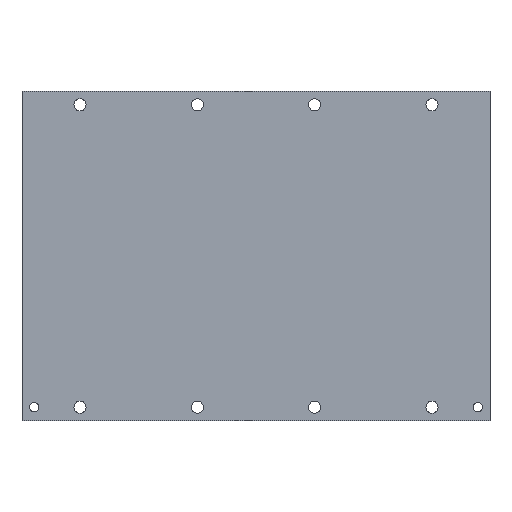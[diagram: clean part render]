
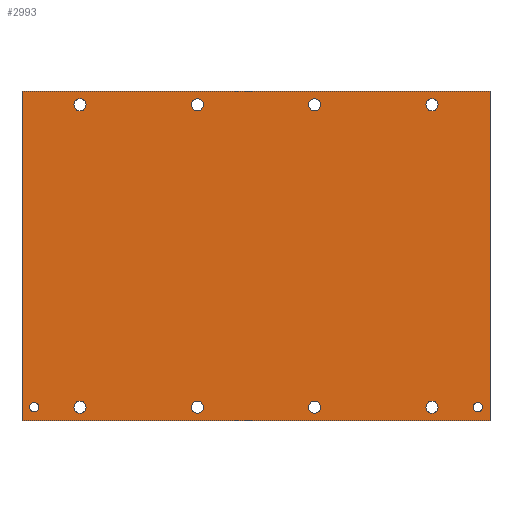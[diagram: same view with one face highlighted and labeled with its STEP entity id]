
A CAD part, front view. The second image highlights one B-rep face of the part: STEP entity #2993.
In plain terms, the highlighted planar face has unit normal (0, -1, 0).
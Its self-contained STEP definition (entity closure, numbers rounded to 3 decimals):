
#13=DIRECTION('',(0.,0.,1.));
#14=VECTOR('',#13,180.);
#15=CARTESIAN_POINT('',(127.65,0.,-90.));
#16=LINE('',#15,#14);
#17=DIRECTION('',(-1.,0.,0.));
#18=VECTOR('',#17,255.3);
#19=CARTESIAN_POINT('',(127.65,0.,90.));
#20=LINE('',#19,#18);
#21=DIRECTION('',(-1.,0.,0.));
#22=VECTOR('',#21,255.3);
#23=CARTESIAN_POINT('',(127.65,0.,-90.));
#24=LINE('',#23,#22);
#25=CARTESIAN_POINT('',(-96.,0.,-82.5));
#26=DIRECTION('',(0.,1.,0.));
#27=DIRECTION('',(1.,0.,0.));
#28=AXIS2_PLACEMENT_3D('',#25,#26,#27);
#30=CARTESIAN_POINT('',(-96.,0.,-82.5));
#31=DIRECTION('',(0.,1.,0.));
#32=DIRECTION('',(-1.,0.,0.));
#33=AXIS2_PLACEMENT_3D('',#30,#31,#32);
#35=CARTESIAN_POINT('',(-32.,0.,-82.5));
#36=DIRECTION('',(0.,1.,0.));
#37=DIRECTION('',(1.,0.,0.));
#38=AXIS2_PLACEMENT_3D('',#35,#36,#37);
#40=CARTESIAN_POINT('',(-32.,0.,-82.5));
#41=DIRECTION('',(0.,1.,0.));
#42=DIRECTION('',(-1.,0.,0.));
#43=AXIS2_PLACEMENT_3D('',#40,#41,#42);
#45=CARTESIAN_POINT('',(32.,0.,-82.5));
#46=DIRECTION('',(0.,1.,0.));
#47=DIRECTION('',(1.,0.,0.));
#48=AXIS2_PLACEMENT_3D('',#45,#46,#47);
#50=CARTESIAN_POINT('',(32.,0.,-82.5));
#51=DIRECTION('',(0.,1.,0.));
#52=DIRECTION('',(-1.,0.,0.));
#53=AXIS2_PLACEMENT_3D('',#50,#51,#52);
#55=CARTESIAN_POINT('',(96.,0.,-82.5));
#56=DIRECTION('',(0.,1.,0.));
#57=DIRECTION('',(1.,0.,0.));
#58=AXIS2_PLACEMENT_3D('',#55,#56,#57);
#60=CARTESIAN_POINT('',(96.,0.,-82.5));
#61=DIRECTION('',(0.,1.,0.));
#62=DIRECTION('',(-1.,0.,0.));
#63=AXIS2_PLACEMENT_3D('',#60,#61,#62);
#65=CARTESIAN_POINT('',(-96.,0.,82.5));
#66=DIRECTION('',(0.,1.,0.));
#67=DIRECTION('',(1.,0.,0.));
#68=AXIS2_PLACEMENT_3D('',#65,#66,#67);
#70=CARTESIAN_POINT('',(-96.,0.,82.5));
#71=DIRECTION('',(0.,1.,0.));
#72=DIRECTION('',(-1.,0.,0.));
#73=AXIS2_PLACEMENT_3D('',#70,#71,#72);
#75=CARTESIAN_POINT('',(-32.,0.,82.5));
#76=DIRECTION('',(0.,1.,0.));
#77=DIRECTION('',(1.,0.,0.));
#78=AXIS2_PLACEMENT_3D('',#75,#76,#77);
#80=CARTESIAN_POINT('',(-32.,0.,82.5));
#81=DIRECTION('',(0.,1.,0.));
#82=DIRECTION('',(-1.,0.,0.));
#83=AXIS2_PLACEMENT_3D('',#80,#81,#82);
#85=CARTESIAN_POINT('',(32.,0.,82.5));
#86=DIRECTION('',(0.,1.,0.));
#87=DIRECTION('',(1.,0.,0.));
#88=AXIS2_PLACEMENT_3D('',#85,#86,#87);
#90=CARTESIAN_POINT('',(32.,0.,82.5));
#91=DIRECTION('',(0.,1.,0.));
#92=DIRECTION('',(-1.,0.,0.));
#93=AXIS2_PLACEMENT_3D('',#90,#91,#92);
#95=CARTESIAN_POINT('',(96.,0.,82.5));
#96=DIRECTION('',(0.,1.,0.));
#97=DIRECTION('',(1.,0.,0.));
#98=AXIS2_PLACEMENT_3D('',#95,#96,#97);
#100=CARTESIAN_POINT('',(96.,0.,82.5));
#101=DIRECTION('',(0.,1.,0.));
#102=DIRECTION('',(-1.,0.,0.));
#103=AXIS2_PLACEMENT_3D('',#100,#101,#102);
#105=CARTESIAN_POINT('',(-121.,0.,-82.5));
#106=DIRECTION('',(0.,-1.,0.));
#107=DIRECTION('',(1.,0.,0.));
#108=AXIS2_PLACEMENT_3D('',#105,#106,#107);
#110=CARTESIAN_POINT('',(-121.,0.,-82.5));
#111=DIRECTION('',(0.,-1.,0.));
#112=DIRECTION('',(-1.,0.,0.));
#113=AXIS2_PLACEMENT_3D('',#110,#111,#112);
#115=CARTESIAN_POINT('',(121.,0.,-82.5));
#116=DIRECTION('',(0.,-1.,0.));
#117=DIRECTION('',(1.,0.,0.));
#118=AXIS2_PLACEMENT_3D('',#115,#116,#117);
#120=CARTESIAN_POINT('',(121.,0.,-82.5));
#121=DIRECTION('',(0.,-1.,0.));
#122=DIRECTION('',(-1.,0.,0.));
#123=AXIS2_PLACEMENT_3D('',#120,#121,#122);
#781=DIRECTION('',(0.,0.,1.));
#782=VECTOR('',#781,180.);
#783=CARTESIAN_POINT('',(-127.65,0.,-90.));
#784=LINE('',#783,#782);
#2185=CARTESIAN_POINT('',(127.65,0.,90.));
#2187=VERTEX_POINT('',#2185);
#2191=CARTESIAN_POINT('',(127.65,0.,-90.));
#2192=VERTEX_POINT('',#2191);
#2193=CARTESIAN_POINT('',(-127.65,0.,90.));
#2195=VERTEX_POINT('',#2193);
#2199=CARTESIAN_POINT('',(-127.65,0.,-90.));
#2200=VERTEX_POINT('',#2199);
#2221=CARTESIAN_POINT('',(-118.445,0.,-82.5));
#2222=CARTESIAN_POINT('',(-123.555,0.,-82.5));
#2223=VERTEX_POINT('',#2221);
#2224=VERTEX_POINT('',#2222);
#2229=CARTESIAN_POINT('',(123.555,0.,-82.5));
#2230=CARTESIAN_POINT('',(118.445,0.,-82.5));
#2231=VERTEX_POINT('',#2229);
#2232=VERTEX_POINT('',#2230);
#2245=CARTESIAN_POINT('',(-92.7,0.,-82.5));
#2246=CARTESIAN_POINT('',(-99.3,0.,-82.5));
#2247=VERTEX_POINT('',#2245);
#2248=VERTEX_POINT('',#2246);
#2261=CARTESIAN_POINT('',(-28.7,0.,-82.5));
#2262=CARTESIAN_POINT('',(-35.3,0.,-82.5));
#2263=VERTEX_POINT('',#2261);
#2264=VERTEX_POINT('',#2262);
#2277=CARTESIAN_POINT('',(35.3,0.,-82.5));
#2278=CARTESIAN_POINT('',(28.7,0.,-82.5));
#2279=VERTEX_POINT('',#2277);
#2280=VERTEX_POINT('',#2278);
#2293=CARTESIAN_POINT('',(99.3,0.,-82.5));
#2294=CARTESIAN_POINT('',(92.7,0.,-82.5));
#2295=VERTEX_POINT('',#2293);
#2296=VERTEX_POINT('',#2294);
#2309=CARTESIAN_POINT('',(-92.7,0.,82.5));
#2310=CARTESIAN_POINT('',(-99.3,0.,82.5));
#2311=VERTEX_POINT('',#2309);
#2312=VERTEX_POINT('',#2310);
#2325=CARTESIAN_POINT('',(-28.7,0.,82.5));
#2326=CARTESIAN_POINT('',(-35.3,0.,82.5));
#2327=VERTEX_POINT('',#2325);
#2328=VERTEX_POINT('',#2326);
#2341=CARTESIAN_POINT('',(35.3,0.,82.5));
#2342=CARTESIAN_POINT('',(28.7,0.,82.5));
#2343=VERTEX_POINT('',#2341);
#2344=VERTEX_POINT('',#2342);
#2357=CARTESIAN_POINT('',(99.3,0.,82.5));
#2358=CARTESIAN_POINT('',(92.7,0.,82.5));
#2359=VERTEX_POINT('',#2357);
#2360=VERTEX_POINT('',#2358);
#2920=CARTESIAN_POINT('',(127.65,0.,-90.));
#2921=DIRECTION('',(0.,-1.,0.));
#2922=DIRECTION('',(0.,0.,1.));
#2923=AXIS2_PLACEMENT_3D('',#2920,#2921,#2922);
#2924=PLANE('',#2923);
#2925=ORIENTED_EDGE('',*,*,#2900,.F.);
#2927=ORIENTED_EDGE('',*,*,#2926,.T.);
#2929=ORIENTED_EDGE('',*,*,#2928,.T.);
#2930=ORIENTED_EDGE('',*,*,#2911,.F.);
#2931=EDGE_LOOP('',(#2925,#2927,#2929,#2930));
#2932=FACE_OUTER_BOUND('',#2931,.F.);
#2934=ORIENTED_EDGE('',*,*,#2933,.F.);
#2936=ORIENTED_EDGE('',*,*,#2935,.F.);
#2937=EDGE_LOOP('',(#2934,#2936));
#2938=FACE_BOUND('',#2937,.F.);
#2940=ORIENTED_EDGE('',*,*,#2939,.F.);
#2942=ORIENTED_EDGE('',*,*,#2941,.F.);
#2943=EDGE_LOOP('',(#2940,#2942));
#2944=FACE_BOUND('',#2943,.F.);
#2946=ORIENTED_EDGE('',*,*,#2945,.F.);
#2948=ORIENTED_EDGE('',*,*,#2947,.F.);
#2949=EDGE_LOOP('',(#2946,#2948));
#2950=FACE_BOUND('',#2949,.F.);
#2952=ORIENTED_EDGE('',*,*,#2951,.F.);
#2954=ORIENTED_EDGE('',*,*,#2953,.F.);
#2955=EDGE_LOOP('',(#2952,#2954));
#2956=FACE_BOUND('',#2955,.F.);
#2958=ORIENTED_EDGE('',*,*,#2957,.F.);
#2960=ORIENTED_EDGE('',*,*,#2959,.F.);
#2961=EDGE_LOOP('',(#2958,#2960));
#2962=FACE_BOUND('',#2961,.F.);
#2964=ORIENTED_EDGE('',*,*,#2963,.F.);
#2966=ORIENTED_EDGE('',*,*,#2965,.F.);
#2967=EDGE_LOOP('',(#2964,#2966));
#2968=FACE_BOUND('',#2967,.F.);
#2970=ORIENTED_EDGE('',*,*,#2969,.F.);
#2972=ORIENTED_EDGE('',*,*,#2971,.F.);
#2973=EDGE_LOOP('',(#2970,#2972));
#2974=FACE_BOUND('',#2973,.F.);
#2976=ORIENTED_EDGE('',*,*,#2975,.F.);
#2978=ORIENTED_EDGE('',*,*,#2977,.F.);
#2979=EDGE_LOOP('',(#2976,#2978));
#2980=FACE_BOUND('',#2979,.F.);
#2982=ORIENTED_EDGE('',*,*,#2981,.T.);
#2984=ORIENTED_EDGE('',*,*,#2983,.T.);
#2985=EDGE_LOOP('',(#2982,#2984));
#2986=FACE_BOUND('',#2985,.F.);
#2988=ORIENTED_EDGE('',*,*,#2987,.T.);
#2990=ORIENTED_EDGE('',*,*,#2989,.T.);
#2991=EDGE_LOOP('',(#2988,#2990));
#2992=FACE_BOUND('',#2991,.F.);
#2993=ADVANCED_FACE('',(#2932,#2938,#2944,#2950,#2956,#2962,#2968,#2974,#2980,
#2986,#2992),#2924,.T.);
#29=CIRCLE('',#28,3.3);
#34=CIRCLE('',#33,3.3);
#39=CIRCLE('',#38,3.3);
#44=CIRCLE('',#43,3.3);
#49=CIRCLE('',#48,3.3);
#54=CIRCLE('',#53,3.3);
#59=CIRCLE('',#58,3.3);
#64=CIRCLE('',#63,3.3);
#69=CIRCLE('',#68,3.3);
#74=CIRCLE('',#73,3.3);
#79=CIRCLE('',#78,3.3);
#84=CIRCLE('',#83,3.3);
#89=CIRCLE('',#88,3.3);
#94=CIRCLE('',#93,3.3);
#99=CIRCLE('',#98,3.3);
#104=CIRCLE('',#103,3.3);
#109=CIRCLE('',#108,2.555);
#114=CIRCLE('',#113,2.555);
#119=CIRCLE('',#118,2.555);
#124=CIRCLE('',#123,2.555);
#2900=EDGE_CURVE('',#2192,#2187,#16,.T.);
#2911=EDGE_CURVE('',#2187,#2195,#20,.T.);
#2926=EDGE_CURVE('',#2192,#2200,#24,.T.);
#2928=EDGE_CURVE('',#2200,#2195,#784,.T.);
#2933=EDGE_CURVE('',#2247,#2248,#29,.T.);
#2935=EDGE_CURVE('',#2248,#2247,#34,.T.);
#2939=EDGE_CURVE('',#2263,#2264,#39,.T.);
#2941=EDGE_CURVE('',#2264,#2263,#44,.T.);
#2945=EDGE_CURVE('',#2279,#2280,#49,.T.);
#2947=EDGE_CURVE('',#2280,#2279,#54,.T.);
#2951=EDGE_CURVE('',#2295,#2296,#59,.T.);
#2953=EDGE_CURVE('',#2296,#2295,#64,.T.);
#2957=EDGE_CURVE('',#2311,#2312,#69,.T.);
#2959=EDGE_CURVE('',#2312,#2311,#74,.T.);
#2963=EDGE_CURVE('',#2327,#2328,#79,.T.);
#2965=EDGE_CURVE('',#2328,#2327,#84,.T.);
#2969=EDGE_CURVE('',#2343,#2344,#89,.T.);
#2971=EDGE_CURVE('',#2344,#2343,#94,.T.);
#2975=EDGE_CURVE('',#2359,#2360,#99,.T.);
#2977=EDGE_CURVE('',#2360,#2359,#104,.T.);
#2981=EDGE_CURVE('',#2223,#2224,#109,.T.);
#2983=EDGE_CURVE('',#2224,#2223,#114,.T.);
#2987=EDGE_CURVE('',#2231,#2232,#119,.T.);
#2989=EDGE_CURVE('',#2232,#2231,#124,.T.);
